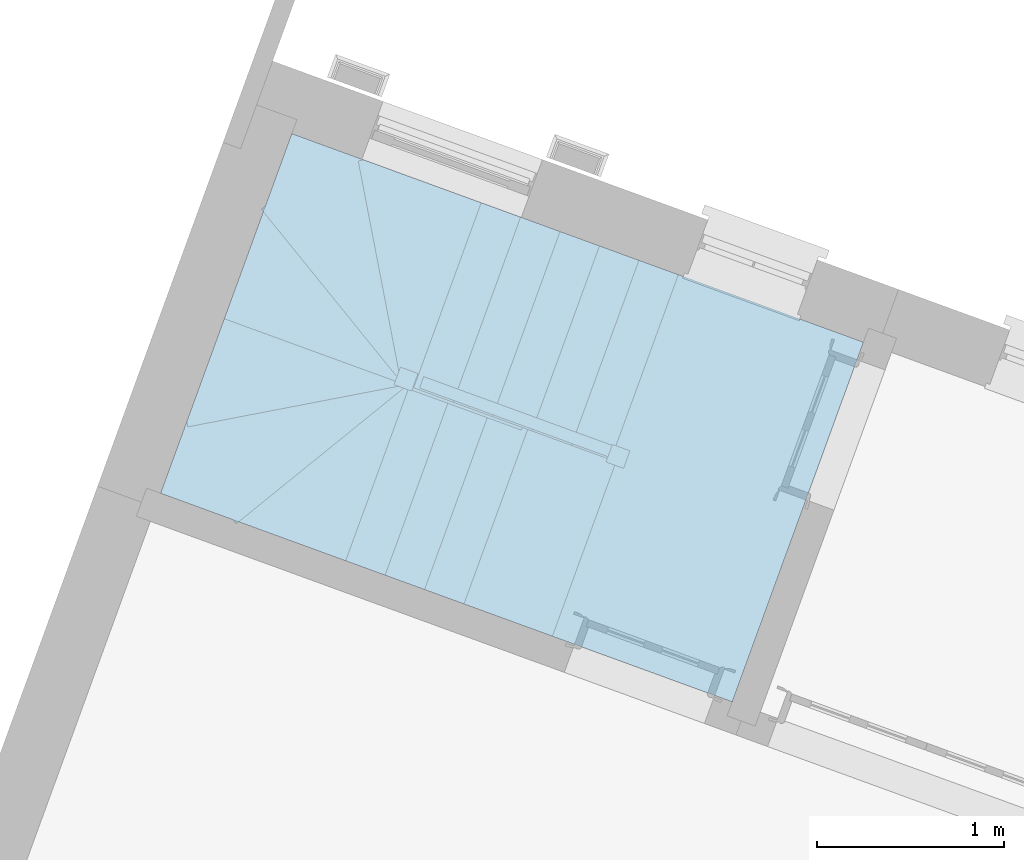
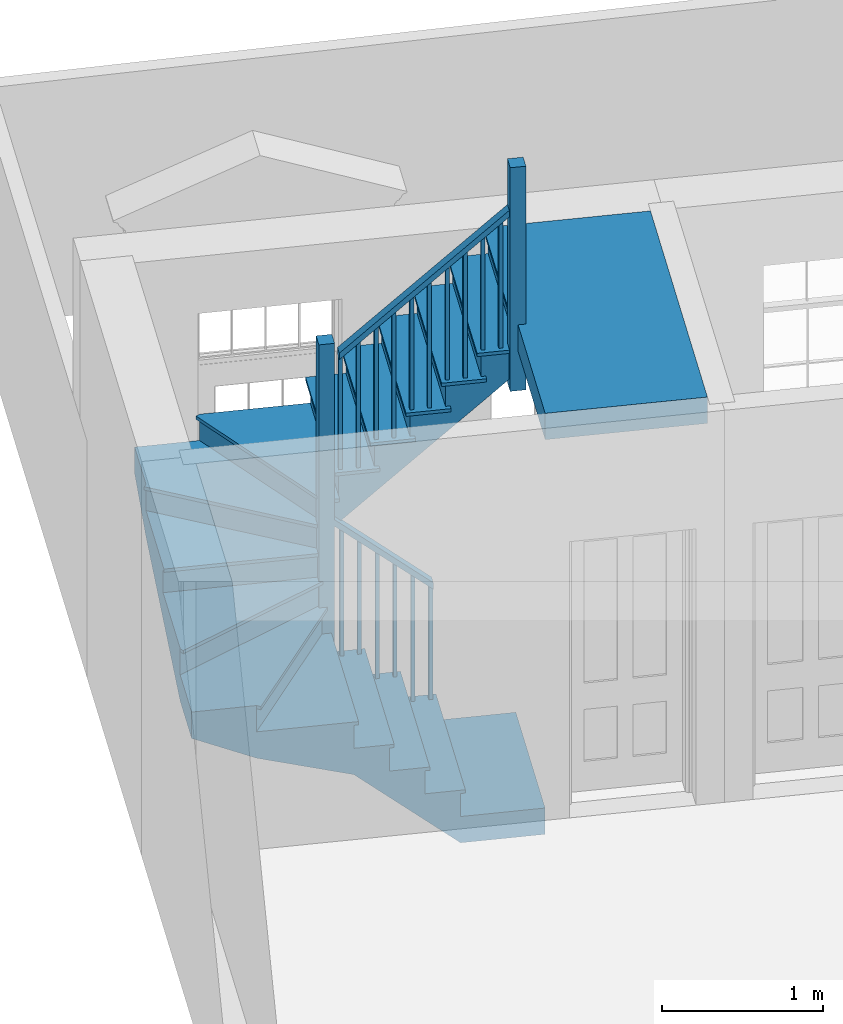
# One storey, part 6 of 6: 1 stair.
"""IFC4 building model written with IfcOpenShell, lengths in metres."""

from ifc_helpers import new_model, si_unit, frame, origin, origin_with_axes, place, context, subcontext, project, spatial, faceted_brep, element, save


model = new_model("IFC4")

# Units and contexts
model_context = context("Model", 3, world=origin_with_axes())
body_context = subcontext(model_context, "Body", "Model", "MODEL_VIEW")
ifc_project = project(units=[si_unit("PLANEANGLEUNIT", "RADIAN"), si_unit("MASSUNIT", "GRAM", prefix="KILO"), si_unit("FORCEUNIT", "NEWTON", prefix="KILO"), si_unit("LENGTHUNIT", "METRE"), si_unit("AREAUNIT", "SQUARE_METRE"), si_unit("VOLUMEUNIT", "CUBIC_METRE")], contexts=[model_context, model_context])

# Sites, building, storey
site_1_placement = place(None, origin_with_axes())
site_1 = spatial("IfcSite", under=ifc_project, at=site_1_placement, Name="Tamar")
site_2_placement = place(site_1_placement, origin_with_axes())
site_2 = spatial("IfcSite", under=site_1, at=site_2_placement, Name="Site plot-13", CompositionType="ELEMENT")
building_placement = place(None, origin_with_axes())
building = spatial("IfcBuilding", under=site_2, at=building_placement, Name="Building plot-13", CompositionType="ELEMENT")
storey_placement = place(None, frame((0.0, 0.0, 26.0), z_axis=(0.0, 0.0, 1.0), x_axis=(1.0, 0.0, 0.0)))
storey = spatial("IfcBuildingStorey", under=building, at=storey_placement, Name="plot-13 0", CompositionType="ELEMENT", Elevation=26.0)

# Stair
stair_placement = place(None, origin())
element("IfcStair", 1, at=stair_placement, inside=storey, Name="Stair", PredefinedType="NOTDEFINED", context=body_context, shape_type="Brep", body=[
    faceted_brep([(245.088696, 302.339506, 28.8), (245.4404, 303.303523, 28.8), (245.229028, 303.380638, 28.8), (244.877324, 302.416621, 28.8), (244.877324, 302.416621, 28.4), (245.229028, 303.380638, 28.4), (245.4404, 303.303523, 28.6), (245.088696, 302.339506, 28.6)], [[[0, 1, 2, 3]], [[4, 5, 6, 7]], [[7, 6, 1, 0]], [[1, 6, 5, 2]], [[5, 4, 3, 2]], [[3, 4, 7, 0]]]),
    faceted_brep([(245.229028, 303.380638, 28.775), (245.200845, 303.39092, 28.775), (245.229028, 303.380638, 28.8), (245.468583, 303.293241, 28.775), (245.4404, 303.303523, 28.775), (245.4404, 303.303523, 28.8), (245.200845, 303.39092, 28.8), (245.468583, 303.293241, 28.8), (244.838859, 302.39872, 28.8), (244.877324, 302.416621, 28.8), (244.877324, 302.416621, 28.775), (244.838859, 302.39872, 28.775), (245.106597, 302.301041, 28.8), (245.088696, 302.339506, 28.8), (245.088696, 302.339506, 28.775), (245.106597, 302.301041, 28.775)], [[[0, 1, 2]], [[3, 4, 5]], [[1, 6, 2]], [[7, 3, 5]], [[2, 6, 8, 9]], [[0, 2, 9, 10]], [[1, 0, 10, 11]], [[6, 1, 11, 8]], [[9, 8, 12, 13]], [[10, 9, 13, 14]], [[11, 10, 14, 15]], [[8, 11, 15, 12]], [[13, 12, 7, 5]], [[14, 13, 5, 4]], [[15, 14, 4, 3]], [[12, 15, 3, 7]]]),
    faceted_brep([(244.877324, 302.416621, 29.7), (244.90081, 302.408053, 29.7), (244.909378, 302.431539, 29.7), (244.885892, 302.440107, 29.7), (244.885892, 302.440107, 28.8), (244.909378, 302.431539, 28.8), (244.90081, 302.408053, 28.8), (244.877324, 302.416621, 28.8)], [[[0, 1, 2, 3]], [[4, 5, 6, 7]], [[7, 6, 1, 0]], [[6, 5, 2, 1]], [[5, 4, 3, 2]], [[4, 7, 0, 3]]]),
    faceted_brep([(244.98301, 302.378063, 29.8), (245.006496, 302.369495, 29.8), (245.015064, 302.392981, 29.8), (244.991578, 302.401549, 29.8), (244.991578, 302.401549, 28.8), (245.015064, 302.392981, 28.8), (245.006496, 302.369495, 28.8), (244.98301, 302.378063, 28.8)], [[[0, 1, 2, 3]], [[4, 5, 6, 7]], [[7, 6, 1, 0]], [[6, 5, 2, 1]], [[5, 4, 3, 2]], [[4, 7, 0, 3]]]),
    faceted_brep([(244.892747, 302.458896, 29.65), (244.870469, 302.397832, 29.65), (244.870469, 302.397832, 29.7), (244.892747, 302.458896, 29.7), (245.081841, 302.320717, 29.85), (245.104119, 302.38178, 29.85), (245.104119, 302.38178, 29.9), (245.081841, 302.320717, 29.9)], [[[0, 1, 2, 3]], [[4, 5, 6, 7]], [[0, 5, 4, 1]], [[3, 2, 7, 6]], [[0, 3, 6, 5]], [[2, 1, 4, 7]]]),
    faceted_brep([(244.877324, 302.416621, 28.6), (245.229028, 303.380638, 28.6), (245.017655, 303.457753, 28.6), (244.665952, 302.493736, 28.6), (244.665952, 302.493736, 28.2), (245.017655, 303.457753, 28.2), (245.229028, 303.380638, 28.4), (244.877324, 302.416621, 28.4)], [[[0, 1, 2, 3]], [[4, 5, 6, 7]], [[7, 6, 1, 0]], [[1, 6, 5, 2]], [[5, 4, 3, 2]], [[3, 4, 7, 0]]]),
    faceted_brep([(245.017655, 303.457753, 28.575), (244.989472, 303.468035, 28.575), (245.017655, 303.457753, 28.6), (245.257211, 303.370356, 28.575), (245.229028, 303.380638, 28.575), (245.229028, 303.380638, 28.6), (244.989472, 303.468035, 28.6), (245.257211, 303.370356, 28.6), (244.627487, 302.475835, 28.6), (244.665952, 302.493736, 28.6), (244.665952, 302.493736, 28.575), (244.627487, 302.475835, 28.575), (244.895225, 302.378156, 28.6), (244.877324, 302.416621, 28.6), (244.877324, 302.416621, 28.575), (244.895225, 302.378156, 28.575)], [[[0, 1, 2]], [[3, 4, 5]], [[1, 6, 2]], [[7, 3, 5]], [[2, 6, 8, 9]], [[0, 2, 9, 10]], [[1, 0, 10, 11]], [[6, 1, 11, 8]], [[9, 8, 12, 13]], [[10, 9, 13, 14]], [[11, 10, 14, 15]], [[8, 11, 15, 12]], [[13, 12, 7, 5]], [[14, 13, 5, 4]], [[15, 14, 4, 3]], [[12, 15, 3, 7]]]),
    faceted_brep([(244.665952, 302.493736, 29.5), (244.689437, 302.485168, 29.5), (244.698006, 302.508654, 29.5), (244.67452, 302.517222, 29.5), (244.67452, 302.517222, 28.6), (244.698006, 302.508654, 28.6), (244.689437, 302.485168, 28.6), (244.665952, 302.493736, 28.6)], [[[0, 1, 2, 3]], [[4, 5, 6, 7]], [[7, 6, 1, 0]], [[6, 5, 2, 1]], [[5, 4, 3, 2]], [[4, 7, 0, 3]]]),
    faceted_brep([(244.771638, 302.455179, 29.6), (244.795123, 302.44661, 29.6), (244.803692, 302.470096, 29.6), (244.780206, 302.478665, 29.6), (244.780206, 302.478665, 28.6), (244.803692, 302.470096, 28.6), (244.795123, 302.44661, 28.6), (244.771638, 302.455179, 28.6)], [[[0, 1, 2, 3]], [[4, 5, 6, 7]], [[7, 6, 1, 0]], [[6, 5, 2, 1]], [[5, 4, 3, 2]], [[4, 7, 0, 3]]]),
    faceted_brep([(244.681375, 302.536011, 29.45), (244.659097, 302.474948, 29.45), (244.659097, 302.474948, 29.5), (244.681375, 302.536011, 29.5), (244.870469, 302.397832, 29.65), (244.892747, 302.458896, 29.65), (244.892747, 302.458896, 29.7), (244.870469, 302.397832, 29.7)], [[[0, 1, 2, 3]], [[4, 5, 6, 7]], [[0, 5, 4, 1]], [[3, 2, 7, 6]], [[0, 3, 6, 5]], [[2, 1, 4, 7]]]),
    faceted_brep([(244.665952, 302.493736, 28.4), (245.017655, 303.457753, 28.4), (244.806283, 303.534868, 28.4), (244.454579, 302.570852, 28.4), (244.454579, 302.570852, 28.0), (244.806283, 303.534868, 28.0), (245.017655, 303.457753, 28.2), (244.665952, 302.493736, 28.2)], [[[0, 1, 2, 3]], [[4, 5, 6, 7]], [[7, 6, 1, 0]], [[1, 6, 5, 2]], [[5, 4, 3, 2]], [[3, 4, 7, 0]]]),
    faceted_brep([(244.7781, 303.54515, 28.375), (244.7781, 303.54515, 28.4), (244.806283, 303.534868, 28.375), (245.045838, 303.447471, 28.4), (245.045838, 303.447471, 28.375), (245.017655, 303.457753, 28.375), (244.806283, 303.534868, 28.4), (245.017655, 303.457753, 28.4), (244.416114, 302.552951, 28.4), (244.454579, 302.570852, 28.4), (244.454579, 302.570852, 28.375), (244.416114, 302.552951, 28.375), (244.683852, 302.455271, 28.4), (244.665952, 302.493736, 28.4), (244.665952, 302.493736, 28.375), (244.683852, 302.455271, 28.375)], [[[0, 1, 2]], [[3, 4, 5]], [[2, 1, 6]], [[3, 5, 7]], [[6, 1, 8, 9]], [[2, 6, 9, 10]], [[0, 2, 10, 11]], [[1, 0, 11, 8]], [[9, 8, 12, 13]], [[10, 9, 13, 14]], [[11, 10, 14, 15]], [[8, 11, 15, 12]], [[13, 12, 3, 7]], [[14, 13, 7, 5]], [[15, 14, 5, 4]], [[12, 15, 4, 3]]]),
    faceted_brep([(244.454579, 302.570852, 29.3), (244.478065, 302.562283, 29.3), (244.486633, 302.585769, 29.3), (244.463148, 302.594337, 29.3), (244.463148, 302.594337, 28.4), (244.486633, 302.585769, 28.4), (244.478065, 302.562283, 28.4), (244.454579, 302.570852, 28.4)], [[[0, 1, 2, 3]], [[4, 5, 6, 7]], [[7, 6, 1, 0]], [[6, 5, 2, 1]], [[5, 4, 3, 2]], [[4, 7, 0, 3]]]),
    faceted_brep([(244.560265, 302.532294, 29.4), (244.583751, 302.523726, 29.4), (244.59232, 302.547211, 29.4), (244.568834, 302.55578, 29.4), (244.568834, 302.55578, 28.4), (244.59232, 302.547211, 28.4), (244.583751, 302.523726, 28.4), (244.560265, 302.532294, 28.4)], [[[0, 1, 2, 3]], [[4, 5, 6, 7]], [[7, 6, 1, 0]], [[6, 5, 2, 1]], [[5, 4, 3, 2]], [[4, 7, 0, 3]]]),
    faceted_brep([(244.470002, 302.613126, 29.25), (244.447725, 302.552063, 29.25), (244.447725, 302.552063, 29.3), (244.470002, 302.613126, 29.3), (244.659097, 302.474948, 29.45), (244.681375, 302.536011, 29.45), (244.681375, 302.536011, 29.5), (244.659097, 302.474948, 29.5)], [[[0, 1, 2, 3]], [[4, 5, 6, 7]], [[0, 5, 4, 1]], [[3, 2, 7, 6]], [[0, 3, 6, 5]], [[2, 1, 4, 7]]]),
    faceted_brep([(244.454579, 302.570852, 28.2), (244.806283, 303.534868, 28.2), (244.594911, 303.611984, 28.2), (244.243207, 302.647967, 28.2), (244.243207, 302.647967, 27.8), (244.594911, 303.611984, 27.8), (244.806283, 303.534868, 28.0), (244.454579, 302.570852, 28.0)], [[[0, 1, 2, 3]], [[4, 5, 6, 7]], [[7, 6, 1, 0]], [[1, 6, 5, 2]], [[5, 4, 3, 2]], [[3, 4, 7, 0]]]),
    faceted_brep([(244.566728, 303.622266, 28.175), (244.566728, 303.622266, 28.2), (244.594911, 303.611984, 28.175), (244.834466, 303.524586, 28.2), (244.834466, 303.524586, 28.175), (244.806283, 303.534868, 28.175), (244.594911, 303.611984, 28.2), (244.806283, 303.534868, 28.2), (244.204742, 302.630066, 28.2), (244.243207, 302.647967, 28.2), (244.243207, 302.647967, 28.175), (244.204742, 302.630066, 28.175), (244.47248, 302.532387, 28.2), (244.454579, 302.570852, 28.2), (244.454579, 302.570852, 28.175), (244.47248, 302.532387, 28.175)], [[[0, 1, 2]], [[3, 4, 5]], [[2, 1, 6]], [[3, 5, 7]], [[6, 1, 8, 9]], [[2, 6, 9, 10]], [[0, 2, 10, 11]], [[1, 0, 11, 8]], [[9, 8, 12, 13]], [[10, 9, 13, 14]], [[11, 10, 14, 15]], [[8, 11, 15, 12]], [[13, 12, 3, 7]], [[14, 13, 7, 5]], [[15, 14, 5, 4]], [[12, 15, 4, 3]]]),
    faceted_brep([(244.243207, 302.647967, 29.1), (244.266693, 302.639399, 29.1), (244.275261, 302.662884, 29.1), (244.251775, 302.671453, 29.1), (244.251775, 302.671453, 28.2), (244.275261, 302.662884, 28.2), (244.266693, 302.639399, 28.2), (244.243207, 302.647967, 28.2)], [[[0, 1, 2, 3]], [[4, 5, 6, 7]], [[7, 6, 1, 0]], [[6, 5, 2, 1]], [[5, 4, 3, 2]], [[4, 7, 0, 3]]]),
    faceted_brep([(244.348893, 302.609409, 29.2), (244.372379, 302.600841, 29.2), (244.380947, 302.624327, 29.2), (244.357462, 302.632895, 29.2), (244.357462, 302.632895, 28.2), (244.380947, 302.624327, 28.2), (244.372379, 302.600841, 28.2), (244.348893, 302.609409, 28.2)], [[[0, 1, 2, 3]], [[4, 5, 6, 7]], [[7, 6, 1, 0]], [[6, 5, 2, 1]], [[5, 4, 3, 2]], [[4, 7, 0, 3]]]),
    faceted_brep([(244.25863, 302.690241, 29.05), (244.236352, 302.629178, 29.05), (244.236352, 302.629178, 29.1), (244.25863, 302.690241, 29.1), (244.447725, 302.552063, 29.25), (244.470002, 302.613126, 29.25), (244.470002, 302.613126, 29.3), (244.447725, 302.552063, 29.3)], [[[0, 1, 2, 3]], [[4, 5, 6, 7]], [[0, 5, 4, 1]], [[3, 2, 7, 6]], [[0, 3, 6, 5]], [[2, 1, 4, 7]]]),
    faceted_brep([(244.243207, 302.647967, 28.0), (244.594911, 303.611984, 28.0), (244.383539, 303.689099, 28.0), (244.031835, 302.725082, 28.0), (244.031835, 302.725082, 27.6), (244.383539, 303.689099, 27.6), (244.594911, 303.611984, 27.8), (244.243207, 302.647967, 27.8)], [[[0, 1, 2, 3]], [[4, 5, 6, 7]], [[7, 6, 1, 0]], [[1, 6, 5, 2]], [[5, 4, 3, 2]], [[3, 4, 7, 0]]]),
    faceted_brep([(244.383539, 303.689099, 27.975), (244.355356, 303.699381, 27.975), (244.383539, 303.689099, 28.0), (244.623094, 303.601702, 27.975), (244.594911, 303.611984, 27.975), (244.594911, 303.611984, 28.0), (244.355356, 303.699381, 28.0), (244.623094, 303.601702, 28.0), (243.99337, 302.707181, 28.0), (244.031835, 302.725082, 28.0), (244.031835, 302.725082, 27.975), (243.99337, 302.707181, 27.975), (244.261108, 302.609502, 28.0), (244.243207, 302.647967, 28.0), (244.243207, 302.647967, 27.975), (244.261108, 302.609502, 27.975)], [[[0, 1, 2]], [[3, 4, 5]], [[1, 6, 2]], [[7, 3, 5]], [[2, 6, 8, 9]], [[0, 2, 9, 10]], [[1, 0, 10, 11]], [[6, 1, 11, 8]], [[9, 8, 12, 13]], [[10, 9, 13, 14]], [[11, 10, 14, 15]], [[8, 11, 15, 12]], [[13, 12, 7, 5]], [[14, 13, 5, 4]], [[15, 14, 4, 3]], [[12, 15, 3, 7]]]),
    faceted_brep([(244.031835, 302.725082, 28.9), (244.055321, 302.716514, 28.9), (244.063889, 302.74, 28.9), (244.040403, 302.748568, 28.9), (244.040403, 302.748568, 28.0), (244.063889, 302.74, 28.0), (244.055321, 302.716514, 28.0), (244.031835, 302.725082, 28.0)], [[[0, 1, 2, 3]], [[4, 5, 6, 7]], [[7, 6, 1, 0]], [[6, 5, 2, 1]], [[5, 4, 3, 2]], [[4, 7, 0, 3]]]),
    faceted_brep([(244.137521, 302.686525, 29.0), (244.161007, 302.677956, 29.0), (244.169575, 302.701442, 29.0), (244.146089, 302.71001, 29.0), (244.146089, 302.71001, 28.0), (244.169575, 302.701442, 28.0), (244.161007, 302.677956, 28.0), (244.137521, 302.686525, 28.0)], [[[0, 1, 2, 3]], [[4, 5, 6, 7]], [[7, 6, 1, 0]], [[6, 5, 2, 1]], [[5, 4, 3, 2]], [[4, 7, 0, 3]]]),
    faceted_brep([(244.047258, 302.767357, 28.85), (244.02498, 302.706294, 28.85), (244.02498, 302.706294, 28.9), (244.047258, 302.767357, 28.9), (244.236352, 302.629178, 29.05), (244.25863, 302.690241, 29.05), (244.25863, 302.690241, 29.1), (244.236352, 302.629178, 29.1)], [[[0, 1, 2, 3]], [[4, 5, 6, 7]], [[0, 5, 4, 1]], [[3, 2, 7, 6]], [[0, 3, 6, 5]], [[2, 1, 4, 7]]]),
    faceted_brep([(244.031835, 302.725082, 27.8), (244.383539, 303.689099, 27.8), (244.30408, 303.718088, 27.8), (243.952376, 302.754071, 27.8), (243.952376, 302.754071, 27.6), (244.30408, 303.718088, 27.6), (244.383539, 303.689099, 27.6), (244.031835, 302.725082, 27.6)], [[[0, 1, 2, 3]], [[4, 5, 6, 7]], [[7, 6, 1, 0]], [[6, 5, 2, 1]], [[5, 4, 3, 2]], [[4, 7, 0, 3]]]),
    faceted_brep([(243.942094, 302.725888, 27.775), (243.942094, 302.725888, 27.8), (243.952376, 302.754071, 27.775), (244.021553, 302.696899, 27.8), (244.021553, 302.696899, 27.775), (244.031835, 302.725082, 27.775), (243.952376, 302.754071, 27.8), (244.031835, 302.725082, 27.8)], [[[0, 1, 2]], [[3, 4, 5]], [[2, 1, 6]], [[3, 5, 7]], [[6, 1, 3, 7]], [[2, 6, 7, 5]], [[0, 2, 5, 4]], [[1, 0, 4, 3]]]),
    faceted_brep([(243.888268, 302.724236, 29.0), (243.982211, 302.689963, 29.0), (244.016484, 302.783906, 29.0), (243.922541, 302.81818, 29.0), (243.922541, 302.81818, 27.8), (244.016484, 302.783906, 27.8), (243.982211, 302.689963, 27.8), (243.888268, 302.724236, 27.8)], [[[0, 1, 2, 3]], [[4, 5, 6, 7]], [[7, 6, 1, 0]], [[6, 5, 2, 1]], [[5, 4, 3, 2]], [[4, 7, 0, 3]]]),
    faceted_brep([(244.30408, 303.718088, 27.8), (243.72567, 303.92911, 27.8), (243.952376, 302.754071, 27.8), (243.952376, 302.754071, 27.4), (243.72567, 303.92911, 27.4), (244.30408, 303.718088, 27.6)], [[[0, 1, 2]], [[3, 4, 5]], [[0, 5, 4, 1]], [[4, 3, 2, 1]], [[2, 3, 5, 0]]]),
    faceted_brep([(243.696213, 303.923427, 27.775), (243.696213, 303.923427, 27.8), (243.72567, 303.92911, 27.775), (243.922919, 302.748388, 27.8), (243.922919, 302.748388, 27.775), (243.952376, 302.754071, 27.775), (243.72567, 303.92911, 27.8), (243.952376, 302.754071, 27.8)], [[[0, 1, 2]], [[3, 4, 5]], [[2, 1, 6]], [[3, 5, 7]], [[6, 1, 3, 7]], [[2, 6, 7, 5]], [[0, 2, 5, 4]], [[1, 0, 4, 3]]]),
    faceted_brep([(243.72567, 303.92911, 27.6), (243.340063, 304.069792, 27.6), (243.199381, 303.684185, 27.6), (243.952376, 302.754071, 27.6), (243.952376, 302.754071, 27.2), (243.199381, 303.684185, 27.2), (243.340063, 304.069792, 27.4), (243.72567, 303.92911, 27.4)], [[[0, 1, 2, 3]], [[4, 5, 6, 7]], [[7, 6, 1, 0]], [[1, 6, 5, 2]], [[5, 4, 3, 2]], [[3, 4, 7, 0]]]),
    faceted_brep([(243.199381, 303.684185, 27.575), (243.176065, 303.665308, 27.575), (243.199381, 303.684185, 27.6), (243.929059, 302.735195, 27.575), (243.952376, 302.754071, 27.575), (243.952376, 302.754071, 27.6), (243.176065, 303.665308, 27.6), (243.929059, 302.735195, 27.6)], [[[0, 1, 2]], [[3, 4, 5]], [[1, 6, 2]], [[7, 3, 5]], [[2, 6, 7, 5]], [[0, 2, 5, 4]], [[1, 0, 4, 3]], [[6, 1, 3, 7]]]),
    faceted_brep([(243.199381, 303.684185, 27.4), (242.988359, 303.105775, 27.4), (243.952376, 302.754071, 27.4), (243.952376, 302.754071, 27.0), (242.988359, 303.105775, 27.0), (243.199381, 303.684185, 27.2)], [[[0, 1, 2]], [[3, 4, 5]], [[0, 5, 4, 1]], [[4, 3, 2, 1]], [[2, 3, 5, 0]]]),
    faceted_brep([(242.988359, 303.105775, 27.375), (242.978077, 303.077592, 27.375), (242.988359, 303.105775, 27.4), (243.942094, 302.725888, 27.375), (243.952376, 302.754071, 27.375), (243.952376, 302.754071, 27.4), (242.978077, 303.077592, 27.4), (243.942094, 302.725888, 27.4)], [[[0, 1, 2]], [[3, 4, 5]], [[1, 6, 2]], [[7, 3, 5]], [[2, 6, 7, 5]], [[0, 2, 5, 4]], [[1, 0, 4, 3]], [[6, 1, 3, 7]]]),
    faceted_brep([(243.888268, 302.724236, 27.8), (243.982211, 302.689963, 27.8), (244.016484, 302.783906, 27.8), (243.922541, 302.81818, 27.8), (243.922541, 302.81818, 26.9), (244.016484, 302.783906, 26.9), (243.982211, 302.689963, 26.9), (243.888268, 302.724236, 26.9)], [[[0, 1, 2, 3]], [[4, 5, 6, 7]], [[7, 6, 1, 0]], [[6, 5, 2, 1]], [[5, 4, 3, 2]], [[4, 7, 0, 3]]]),
    faceted_brep([(243.952376, 302.754071, 27.0), (242.988359, 303.105775, 27.0), (242.988359, 303.105775, 27.2), (243.952376, 302.754071, 27.2)], [[[0, 1, 2, 3]], [[1, 0, 3, 2]]]),
    faceted_brep([(243.925543, 302.767488, 27.175), (243.925543, 302.767488, 27.2), (243.952376, 302.754071, 27.175), (243.952376, 302.754071, 27.2)], [[[0, 1, 2]], [[1, 0, 2]], [[2, 1, 3]], [[1, 2, 3]]]),
    faceted_brep([(243.982211, 302.689963, 28.4), (244.016484, 302.783906, 28.4), (243.922541, 302.81818, 28.4), (243.888268, 302.724236, 28.4), (243.888268, 302.724236, 27.2), (243.922541, 302.81818, 27.2), (244.016484, 302.783906, 27.2), (243.982211, 302.689963, 27.2)], [[[0, 1, 2, 3]], [[4, 5, 6, 7]], [[7, 6, 1, 0]], [[6, 5, 2, 1]], [[5, 4, 3, 2]], [[4, 7, 0, 3]]]),
    faceted_brep([(242.988359, 303.105775, 27.2), (242.777337, 302.527365, 27.2), (243.952376, 302.754071, 27.2), (243.952376, 302.754071, 26.8), (242.777337, 302.527365, 26.8), (242.988359, 303.105775, 27.0)], [[[0, 1, 2]], [[3, 4, 5]], [[0, 5, 4, 1]], [[4, 3, 2, 1]], [[2, 3, 5, 0]]]),
    faceted_brep([(242.777337, 302.527365, 27.175), (242.78302, 302.497908, 27.175), (242.777337, 302.527365, 27.2), (243.958059, 302.724614, 27.175), (243.952376, 302.754071, 27.175), (243.952376, 302.754071, 27.2), (242.78302, 302.497908, 27.2), (243.958059, 302.724614, 27.2)], [[[0, 1, 2]], [[3, 4, 5]], [[1, 6, 2]], [[7, 3, 5]], [[2, 6, 7, 5]], [[0, 2, 5, 4]], [[1, 0, 4, 3]], [[6, 1, 3, 7]]]),
    faceted_brep([(242.777337, 302.527365, 27.0), (242.636655, 302.141758, 27.0), (243.022262, 302.001077, 27.0), (243.952376, 302.754071, 27.0), (243.952376, 302.754071, 26.6), (243.022262, 302.001077, 26.6), (242.636655, 302.141758, 26.8), (242.777337, 302.527365, 26.8)], [[[0, 1, 2, 3]], [[4, 5, 6, 7]], [[7, 6, 1, 0]], [[1, 6, 5, 2]], [[5, 4, 3, 2]], [[3, 4, 7, 0]]]),
    faceted_brep([(243.022262, 302.001077, 26.975), (243.041139, 301.97776, 26.975), (243.022262, 302.001077, 27.0), (243.971253, 302.730754, 26.975), (243.952376, 302.754071, 26.975), (243.952376, 302.754071, 27.0), (243.041139, 301.97776, 27.0), (243.971253, 302.730754, 27.0)], [[[0, 1, 2]], [[3, 4, 5]], [[1, 6, 2]], [[7, 3, 5]], [[2, 6, 7, 5]], [[0, 2, 5, 4]], [[1, 0, 4, 3]], [[6, 1, 3, 7]]]),
    faceted_brep([(243.022262, 302.001077, 26.8), (243.600672, 301.790054, 26.8), (243.952376, 302.754071, 26.8), (243.952376, 302.754071, 26.4), (243.600672, 301.790054, 26.4), (243.022262, 302.001077, 26.6)], [[[0, 1, 2]], [[3, 4, 5]], [[0, 5, 4, 1]], [[4, 3, 2, 1]], [[2, 3, 5, 0]]]),
    faceted_brep([(243.628855, 301.779772, 26.775), (243.628855, 301.779772, 26.8), (243.600672, 301.790054, 26.775), (243.980559, 302.743789, 26.8), (243.980559, 302.743789, 26.775), (243.952376, 302.754071, 26.775), (243.600672, 301.790054, 26.8), (243.952376, 302.754071, 26.8)], [[[0, 1, 2]], [[3, 4, 5]], [[2, 1, 6]], [[3, 5, 7]], [[6, 1, 3, 7]], [[2, 6, 7, 5]], [[0, 2, 5, 4]], [[1, 0, 4, 3]]]),
    faceted_brep([(243.982211, 302.689963, 27.2), (244.016484, 302.783906, 27.2), (243.922541, 302.81818, 27.2), (243.888268, 302.724236, 27.2), (243.888268, 302.724236, 26.3), (243.922541, 302.81818, 26.3), (244.016484, 302.783906, 26.3), (243.982211, 302.689963, 26.3)], [[[0, 1, 2, 3]], [[4, 5, 6, 7]], [[7, 6, 1, 0]], [[6, 5, 2, 1]], [[5, 4, 3, 2]], [[4, 7, 0, 3]]]),
    faceted_brep([(243.952376, 302.754071, 26.6), (243.600672, 301.790054, 26.6), (243.812045, 301.712939, 26.6), (244.163748, 302.676956, 26.6), (244.163748, 302.676956, 26.2), (243.812045, 301.712939, 26.2), (243.600672, 301.790054, 26.4), (243.952376, 302.754071, 26.4)], [[[0, 1, 2, 3]], [[4, 5, 6, 7]], [[7, 6, 1, 0]], [[1, 6, 5, 2]], [[5, 4, 3, 2]], [[3, 4, 7, 0]]]),
    faceted_brep([(243.840227, 301.702657, 26.575), (243.840227, 301.702657, 26.6), (243.812045, 301.712939, 26.575), (243.572489, 301.800336, 26.6), (243.572489, 301.800336, 26.575), (243.600672, 301.790054, 26.575), (243.812045, 301.712939, 26.6), (243.600672, 301.790054, 26.6), (244.202213, 302.694857, 26.6), (244.163748, 302.676956, 26.6), (244.163748, 302.676956, 26.575), (244.202213, 302.694857, 26.575), (243.934475, 302.792536, 26.6), (243.952376, 302.754071, 26.6), (243.952376, 302.754071, 26.575), (243.934475, 302.792536, 26.575)], [[[0, 1, 2]], [[3, 4, 5]], [[2, 1, 6]], [[3, 5, 7]], [[6, 1, 8, 9]], [[2, 6, 9, 10]], [[0, 2, 10, 11]], [[1, 0, 11, 8]], [[9, 8, 12, 13]], [[10, 9, 13, 14]], [[11, 10, 14, 15]], [[8, 11, 15, 12]], [[13, 12, 3, 7]], [[14, 13, 7, 5]], [[15, 14, 5, 4]], [[12, 15, 4, 3]]]),
    faceted_brep([(244.163748, 302.676956, 27.5), (244.140262, 302.685524, 27.5), (244.131694, 302.662039, 27.5), (244.15518, 302.65347, 27.5), (244.15518, 302.65347, 26.6), (244.131694, 302.662039, 26.6), (244.140262, 302.685524, 26.6), (244.163748, 302.676956, 26.6)], [[[0, 1, 2, 3]], [[4, 5, 6, 7]], [[7, 6, 1, 0]], [[6, 5, 2, 1]], [[5, 4, 3, 2]], [[4, 7, 0, 3]]]),
    faceted_brep([(244.058062, 302.715514, 27.6), (244.034576, 302.724082, 27.6), (244.026008, 302.700596, 27.6), (244.049494, 302.692028, 27.6), (244.049494, 302.692028, 26.6), (244.026008, 302.700596, 26.6), (244.034576, 302.724082, 26.6), (244.058062, 302.715514, 26.6)], [[[0, 1, 2, 3]], [[4, 5, 6, 7]], [[7, 6, 1, 0]], [[6, 5, 2, 1]], [[5, 4, 3, 2]], [[4, 7, 0, 3]]]),
    faceted_brep([(244.148325, 302.634682, 27.45), (244.170603, 302.695745, 27.45), (244.170603, 302.695745, 27.5), (244.148325, 302.634682, 27.5), (243.959231, 302.77286, 27.65), (243.936953, 302.711797, 27.65), (243.936953, 302.711797, 27.7), (243.959231, 302.77286, 27.7)], [[[0, 1, 2, 3]], [[4, 5, 6, 7]], [[0, 5, 4, 1]], [[3, 2, 7, 6]], [[0, 3, 6, 5]], [[2, 1, 4, 7]]]),
    faceted_brep([(244.163748, 302.676956, 26.4), (243.812045, 301.712939, 26.4), (244.023417, 301.635824, 26.4), (244.375121, 302.599841, 26.4), (244.375121, 302.599841, 26.0), (244.023417, 301.635824, 26.0), (243.812045, 301.712939, 26.2), (244.163748, 302.676956, 26.2)], [[[0, 1, 2, 3]], [[4, 5, 6, 7]], [[7, 6, 1, 0]], [[1, 6, 5, 2]], [[5, 4, 3, 2]], [[3, 4, 7, 0]]]),
    faceted_brep([(244.0516, 301.625542, 26.375), (244.0516, 301.625542, 26.4), (244.023417, 301.635824, 26.375), (243.783862, 301.723221, 26.4), (243.783862, 301.723221, 26.375), (243.812045, 301.712939, 26.375), (244.023417, 301.635824, 26.4), (243.812045, 301.712939, 26.4), (244.413586, 302.617742, 26.4), (244.375121, 302.599841, 26.4), (244.375121, 302.599841, 26.375), (244.413586, 302.617742, 26.375), (244.145847, 302.715421, 26.4), (244.163748, 302.676956, 26.4), (244.163748, 302.676956, 26.375), (244.145847, 302.715421, 26.375)], [[[0, 1, 2]], [[3, 4, 5]], [[2, 1, 6]], [[3, 5, 7]], [[6, 1, 8, 9]], [[2, 6, 9, 10]], [[0, 2, 10, 11]], [[1, 0, 11, 8]], [[9, 8, 12, 13]], [[10, 9, 13, 14]], [[11, 10, 14, 15]], [[8, 11, 15, 12]], [[13, 12, 3, 7]], [[14, 13, 7, 5]], [[15, 14, 5, 4]], [[12, 15, 4, 3]]]),
    faceted_brep([(244.375121, 302.599841, 27.3), (244.351635, 302.608409, 27.3), (244.343066, 302.584923, 27.3), (244.366552, 302.576355, 27.3), (244.366552, 302.576355, 26.4), (244.343066, 302.584923, 26.4), (244.351635, 302.608409, 26.4), (244.375121, 302.599841, 26.4)], [[[0, 1, 2, 3]], [[4, 5, 6, 7]], [[7, 6, 1, 0]], [[6, 5, 2, 1]], [[5, 4, 3, 2]], [[4, 7, 0, 3]]]),
    faceted_brep([(244.269434, 302.638398, 27.4), (244.245949, 302.646967, 27.4), (244.23738, 302.623481, 27.4), (244.260866, 302.614913, 27.4), (244.260866, 302.614913, 26.4), (244.23738, 302.623481, 26.4), (244.245949, 302.646967, 26.4), (244.269434, 302.638398, 26.4)], [[[0, 1, 2, 3]], [[4, 5, 6, 7]], [[7, 6, 1, 0]], [[6, 5, 2, 1]], [[5, 4, 3, 2]], [[4, 7, 0, 3]]]),
    faceted_brep([(244.359697, 302.557566, 27.25), (244.381975, 302.618629, 27.25), (244.381975, 302.618629, 27.3), (244.359697, 302.557566, 27.3), (244.170603, 302.695745, 27.45), (244.148325, 302.634682, 27.45), (244.148325, 302.634682, 27.5), (244.170603, 302.695745, 27.5)], [[[0, 1, 2, 3]], [[4, 5, 6, 7]], [[0, 5, 4, 1]], [[3, 2, 7, 6]], [[0, 3, 6, 5]], [[2, 1, 4, 7]]]),
    faceted_brep([(244.375121, 302.599841, 26.2), (244.023417, 301.635824, 26.2), (244.234789, 301.558709, 26.2), (244.586493, 302.522725, 26.2), (244.586493, 302.522725, 25.8), (244.234789, 301.558709, 25.8), (244.023417, 301.635824, 26.0), (244.375121, 302.599841, 26.0)], [[[0, 1, 2, 3]], [[4, 5, 6, 7]], [[7, 6, 1, 0]], [[1, 6, 5, 2]], [[5, 4, 3, 2]], [[3, 4, 7, 0]]]),
    faceted_brep([(244.234789, 301.558709, 26.175), (244.262972, 301.548427, 26.175), (244.234789, 301.558709, 26.2), (243.995234, 301.646106, 26.175), (244.023417, 301.635824, 26.175), (244.023417, 301.635824, 26.2), (244.262972, 301.548427, 26.2), (243.995234, 301.646106, 26.2), (244.624958, 302.540626, 26.2), (244.586493, 302.522725, 26.2), (244.586493, 302.522725, 26.175), (244.624958, 302.540626, 26.175), (244.35722, 302.638306, 26.2), (244.375121, 302.599841, 26.2), (244.375121, 302.599841, 26.175), (244.35722, 302.638306, 26.175)], [[[0, 1, 2]], [[3, 4, 5]], [[1, 6, 2]], [[7, 3, 5]], [[2, 6, 8, 9]], [[0, 2, 9, 10]], [[1, 0, 10, 11]], [[6, 1, 11, 8]], [[9, 8, 12, 13]], [[10, 9, 13, 14]], [[11, 10, 14, 15]], [[8, 11, 15, 12]], [[13, 12, 7, 5]], [[14, 13, 5, 4]], [[15, 14, 4, 3]], [[12, 15, 3, 7]]]),
    faceted_brep([(244.586493, 302.522725, 27.1), (244.563007, 302.531294, 27.1), (244.554439, 302.507808, 27.1), (244.577924, 302.49924, 27.1), (244.577924, 302.49924, 26.2), (244.554439, 302.507808, 26.2), (244.563007, 302.531294, 26.2), (244.586493, 302.522725, 26.2)], [[[0, 1, 2, 3]], [[4, 5, 6, 7]], [[7, 6, 1, 0]], [[6, 5, 2, 1]], [[5, 4, 3, 2]], [[4, 7, 0, 3]]]),
    faceted_brep([(244.480807, 302.561283, 27.2), (244.457321, 302.569851, 27.2), (244.448753, 302.546366, 27.2), (244.472238, 302.537797, 27.2), (244.472238, 302.537797, 26.2), (244.448753, 302.546366, 26.2), (244.457321, 302.569851, 26.2), (244.480807, 302.561283, 26.2)], [[[0, 1, 2, 3]], [[4, 5, 6, 7]], [[7, 6, 1, 0]], [[6, 5, 2, 1]], [[5, 4, 3, 2]], [[4, 7, 0, 3]]]),
    faceted_brep([(244.57107, 302.480451, 27.05), (244.593348, 302.541514, 27.05), (244.593348, 302.541514, 27.1), (244.57107, 302.480451, 27.1), (244.381975, 302.618629, 27.25), (244.359697, 302.557566, 27.25), (244.359697, 302.557566, 27.3), (244.381975, 302.618629, 27.3)], [[[0, 1, 2, 3]], [[4, 5, 6, 7]], [[0, 5, 4, 1]], [[3, 2, 7, 6]], [[0, 3, 6, 5]], [[2, 1, 4, 7]]]),
    faceted_brep([(244.586493, 302.522725, 26.0), (244.234789, 301.558709, 26.0), (244.736992, 301.375489, 26.0), (245.088696, 302.339506, 26.0), (245.088696, 302.339506, 25.8), (244.736992, 301.375489, 25.8), (244.234789, 301.558709, 25.8), (244.586493, 302.522725, 25.8)], [[[0, 1, 2, 3]], [[4, 5, 6, 7]], [[7, 6, 1, 0]], [[6, 5, 2, 1]], [[5, 4, 3, 2]], [[4, 7, 0, 3]]]),
    faceted_brep([(245.088696, 302.339506, 25.975), (245.098978, 302.367689, 25.975), (245.088696, 302.339506, 26.0), (244.596775, 302.550908, 25.975), (244.586493, 302.522725, 25.975), (244.586493, 302.522725, 26.0), (245.098978, 302.367689, 26.0), (244.596775, 302.550908, 26.0)], [[[0, 1, 2]], [[3, 4, 5]], [[1, 6, 2]], [[7, 3, 5]], [[2, 6, 7, 5]], [[0, 2, 5, 4]], [[1, 0, 4, 3]], [[6, 1, 3, 7]]]),
    faceted_brep([(245.152804, 302.369341, 30.2), (245.058861, 302.403614, 30.2), (245.024588, 302.309671, 30.2), (245.118531, 302.275397, 30.2), (245.118531, 302.275397, 29.0), (245.024588, 302.309671, 29.0), (245.058861, 302.403614, 29.0), (245.152804, 302.369341, 29.0)], [[[0, 1, 2, 3]], [[4, 5, 6, 7]], [[7, 6, 1, 0]], [[6, 5, 2, 1]], [[5, 4, 3, 2]], [[4, 7, 0, 3]]]),
    faceted_brep([(245.088696, 302.339506, 29.0), (244.736992, 301.375489, 29.0), (245.701009, 301.023785, 29.0), (246.052713, 301.987802, 29.0), (246.052713, 301.987802, 28.8), (245.701009, 301.023785, 28.8), (244.736992, 301.375489, 28.8), (245.088696, 302.339506, 28.8)], [[[0, 1, 2, 3]], [[4, 5, 6, 7]], [[7, 6, 1, 0]], [[6, 5, 2, 1]], [[5, 4, 3, 2]], [[4, 7, 0, 3]]]),
    faceted_brep([(246.052713, 301.987802, 28.975), (246.062995, 302.015985, 28.975), (246.052713, 301.987802, 29.0), (245.098978, 302.367689, 28.975), (245.088696, 302.339506, 28.975), (245.088696, 302.339506, 29.0), (246.062995, 302.015985, 29.0), (245.098978, 302.367689, 29.0)], [[[0, 1, 2]], [[3, 4, 5]], [[1, 6, 2]], [[7, 3, 5]], [[2, 6, 7, 5]], [[0, 2, 5, 4]], [[1, 0, 4, 3]], [[6, 1, 3, 7]]]),
    faceted_brep([(245.152804, 302.369341, 29.0), (245.058861, 302.403614, 29.0), (245.024588, 302.309671, 29.0), (245.118531, 302.275397, 29.0), (245.118531, 302.275397, 28.5), (245.024588, 302.309671, 28.5), (245.058861, 302.403614, 28.5), (245.152804, 302.369341, 28.5)], [[[0, 1, 2, 3]], [[4, 5, 6, 7]], [[7, 6, 1, 0]], [[6, 5, 2, 1]], [[5, 4, 3, 2]], [[4, 7, 0, 3]]]),
    faceted_brep([(245.088696, 302.339506, 28.8), (246.052713, 301.987802, 28.8), (246.052713, 301.987802, 29.0), (245.088696, 302.339506, 29.0)], [[[0, 1, 2, 3]], [[1, 0, 3, 2]]]),
    faceted_brep([(245.116786, 302.328972, 28.975), (245.116786, 302.328972, 29.0), (245.088696, 302.339506, 28.975), (245.088696, 302.339506, 29.0)], [[[0, 1, 2]], [[1, 0, 2]], [[2, 1, 3]], [[1, 2, 3]]]),
    faceted_brep([(245.058861, 302.403614, 30.2), (245.024588, 302.309671, 30.2), (245.118531, 302.275397, 30.2), (245.152804, 302.369341, 30.2), (245.152804, 302.369341, 29.0), (245.118531, 302.275397, 29.0), (245.024588, 302.309671, 29.0), (245.058861, 302.403614, 29.0)], [[[0, 1, 2, 3]], [[4, 5, 6, 7]], [[7, 6, 1, 0]], [[6, 5, 2, 1]], [[5, 4, 3, 2]], [[4, 7, 0, 3]]]),
    faceted_brep([(245.088696, 302.339506, 29.0), (246.052713, 301.987802, 29.0), (246.404417, 302.951819, 29.0), (245.4404, 303.303523, 29.0), (245.4404, 303.303523, 28.8), (246.404417, 302.951819, 28.8), (246.052713, 301.987802, 28.8), (245.088696, 302.339506, 28.8)], [[[0, 1, 2, 3]], [[4, 5, 6, 7]], [[7, 6, 1, 0]], [[6, 5, 2, 1]], [[5, 4, 3, 2]], [[4, 7, 0, 3]]]),
    faceted_brep([(245.4404, 303.303523, 28.975), (245.412217, 303.313805, 28.975), (245.4404, 303.303523, 29.0), (245.060513, 302.349788, 28.975), (245.088696, 302.339506, 28.975), (245.088696, 302.339506, 29.0), (245.412217, 303.313805, 29.0), (245.060513, 302.349788, 29.0)], [[[0, 1, 2]], [[3, 4, 5]], [[1, 6, 2]], [[7, 3, 5]], [[2, 6, 7, 5]], [[0, 2, 5, 4]], [[1, 0, 4, 3]], [[6, 1, 3, 7]]]),
    faceted_brep([(245.058861, 302.403614, 29.0), (245.024588, 302.309671, 29.0), (245.118531, 302.275397, 29.0), (245.152804, 302.369341, 29.0), (245.152804, 302.369341, 28.5), (245.118531, 302.275397, 28.5), (245.024588, 302.309671, 28.5), (245.058861, 302.403614, 28.5)], [[[0, 1, 2, 3]], [[4, 5, 6, 7]], [[7, 6, 1, 0]], [[6, 5, 2, 1]], [[5, 4, 3, 2]], [[4, 7, 0, 3]]]),
])

save(model, "model.ifc")
